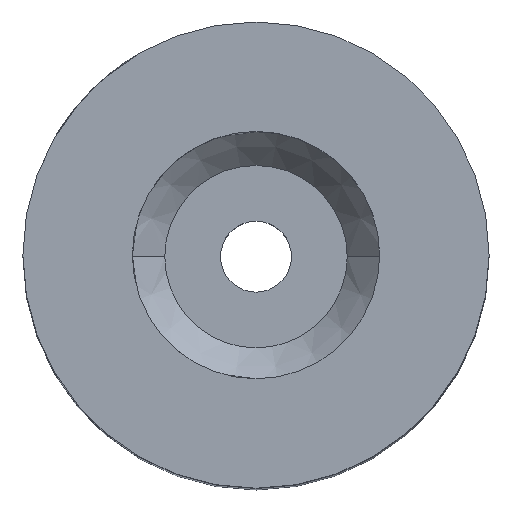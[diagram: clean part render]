
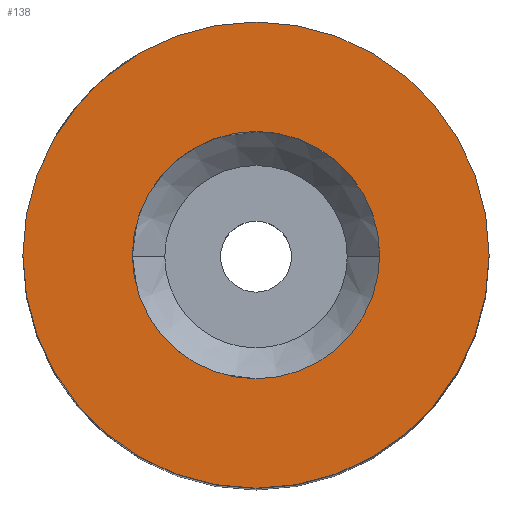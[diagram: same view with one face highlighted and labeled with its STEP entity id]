
A CAD part, top view. The second image highlights one B-rep face of the part: STEP entity #138.
In plain terms, the highlighted planar face has unit normal (0, 0, 1).
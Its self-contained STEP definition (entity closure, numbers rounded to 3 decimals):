
#110=PLANE('',#445);
#117=FACE_BOUND('',#187,.T.);
#118=FACE_BOUND('',#188,.T.);
#138=ADVANCED_FACE('',(#117,#118),#110,.T.);
#187=EDGE_LOOP('',(#265,#266));
#188=EDGE_LOOP('',(#267,#268));
#217=CIRCLE('',#441,11.5);
#218=CIRCLE('',#442,11.5);
#219=CIRCLE('',#443,6.1);
#220=CIRCLE('',#444,6.1);
#265=ORIENTED_EDGE('',*,*,#361,.F.);
#266=ORIENTED_EDGE('',*,*,#362,.F.);
#267=ORIENTED_EDGE('',*,*,#363,.T.);
#268=ORIENTED_EDGE('',*,*,#364,.T.);
#325=VERTEX_POINT('',#605);
#326=VERTEX_POINT('',#606);
#327=VERTEX_POINT('',#609);
#328=VERTEX_POINT('',#610);
#361=EDGE_CURVE('',#325,#326,#217,.T.);
#362=EDGE_CURVE('',#326,#325,#218,.T.);
#363=EDGE_CURVE('',#327,#328,#219,.T.);
#364=EDGE_CURVE('',#328,#327,#220,.T.);
#441=AXIS2_PLACEMENT_3D('',#604,#518,#519);
#442=AXIS2_PLACEMENT_3D('',#607,#520,#521);
#443=AXIS2_PLACEMENT_3D('',#608,#522,#523);
#444=AXIS2_PLACEMENT_3D('',#611,#524,#525);
#445=AXIS2_PLACEMENT_3D('',#612,#526,#527);
#518=DIRECTION('',(0.,0.,-1.));
#519=DIRECTION('',(0.,1.,0.));
#520=DIRECTION('',(0.,0.,-1.));
#521=DIRECTION('',(0.,-1.,0.));
#522=DIRECTION('',(0.,0.,-1.));
#523=DIRECTION('',(0.,-1.,0.));
#524=DIRECTION('',(0.,0.,-1.));
#525=DIRECTION('',(0.,1.,0.));
#526=DIRECTION('',(0.,0.,1.));
#527=DIRECTION('',(0.,-1.,0.));
#604=CARTESIAN_POINT('',(0.,0.,50.));
#605=CARTESIAN_POINT('',(11.5,0.,50.));
#606=CARTESIAN_POINT('',(-11.5,0.,50.));
#607=CARTESIAN_POINT('',(0.,0.,50.));
#608=CARTESIAN_POINT('',(0.,0.,50.));
#609=CARTESIAN_POINT('',(-6.1,0.,50.));
#610=CARTESIAN_POINT('',(6.1,0.,50.));
#611=CARTESIAN_POINT('',(0.,0.,50.));
#612=CARTESIAN_POINT('',(0.,0.,50.));
